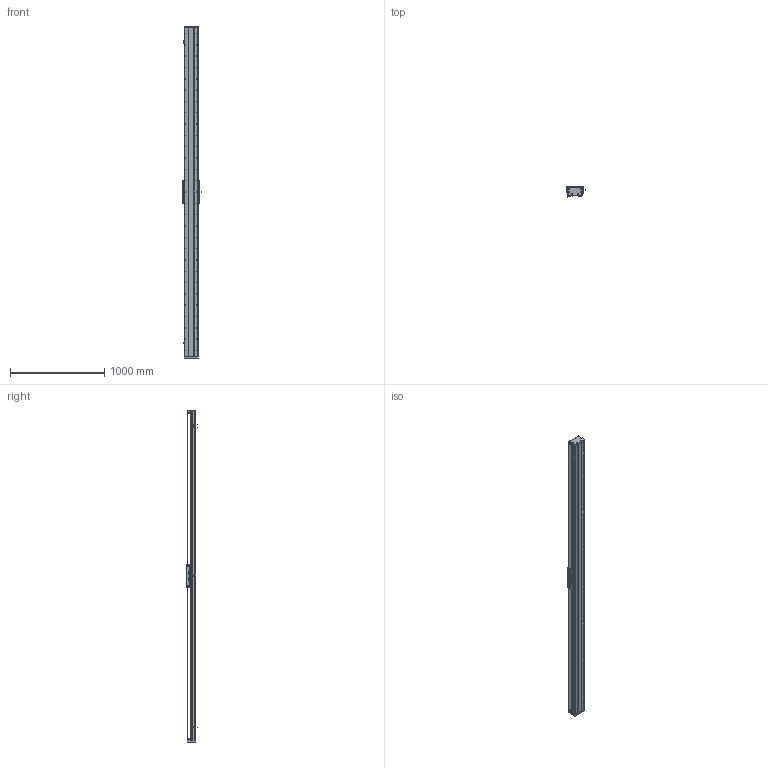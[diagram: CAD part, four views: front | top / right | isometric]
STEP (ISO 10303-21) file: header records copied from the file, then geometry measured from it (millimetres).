
FILE_DESCRIPTION (( 'STEP AP203' ), '1' );
FILE_NAME ('DA-C145-C3-T3180-C010-0.2 眻盄萇儂.STEP', '2025-08-14T01:37:30', ( '' ), ( '' ), 'SwSTEP 2.0', 'SolidWorks 2019', '' );
FILE_SCHEMA (( 'CONFIG_CONTROL_DESIGN' ));
Length unit declared in the file: millimetre
Products named in the file (32): 葩璃 DA95-GT-T-00^IU-CU145-L 菁釱絳寢; DA-C145-C3-T3180-C010-0.2 眻盄萇儂; CU145-W 幗紩賑怢; IU-CU145-L 菁釱絳寢; 复件 DA95-DB-00  挡板^CU145-W 滚珠滑台; 复件 内六角平端紧定螺钉 GB.T77-2000 M5×10^CU145-W 滚珠滑台; 复件 DA145-C3-YB-A-00 压板A^CU145-W 滚珠滑台; 复件 DA95-MFP-01 密封片^CU145-W 滚珠滑台; 葩璃 DMA-010-0.2 黍杅芛^DA-C145-C3-T-C010-0.2; 复件 DA145 钢带^复件 CU145 钢带组件_DA-C145-C3-T-C010-0.2; 葩璃 CKMA01-W060-TRL^DA-C145-C3-T-C010-0.2; 复件 半圆头内六角螺钉 M3×6^CU145-W 滚珠滑台; 葩璃 DA95-HXJ-00 遣喳砎蝶^DA-C145-C3-T-C010-0.2; 葩璃 CU145 詩湍郪璃^DA-C145-C3-T-C010-0.2; TAY01-M8; 葩璃 DA145-C3-DP-B-00 菜えB^CU145-W 幗紩賑怢; 葩璃 CKM03-W060-C1C2-TP-0.2^DA-C145-C3-T-C010-0.2; 复件 DA146 钢带垫块^复件 CU145 钢带组件_DA-C145-C3-T-C010-0.2; 葩璃 鞠褒情蹟譫 M3^DA-C145-C3-T-C010-0.2; 66245-CU145-HT-W-00 賑雄怢啣(3D芞祧)(00); IU-CU145-L-00 菁釱(L3480); 复件 DA145-C3-DK-00 挡块^CU145-W 滚珠滑台; 复件 DA95-HK-GT-00 滑块钢轨^CU145-W-00 一体化滑动台板; CU145-W-00 珨极趙賑雄怢啣; 复件 DA145-DG 钢带端盖^复件 CU145 钢带组件_DA-C145-C3-T-C010-0.2; 复件 DA145-GYP-00 光电感应片^DA-C145-C3-T-C010-0.2; 葩璃 XD-U-02L 棠掑喜^DA-C145-C3-T-C010-0.2; 葩璃 DA145-C3-DP-A-00 菜えA^CU145-W 幗紩賑怢; 复件 纯铜油杯 6x6mm^CU145-W 滚珠滑台; 葩璃 PM-T45^DA-C145-C3-T-C010-0.2; 复件 DA145-C3-YB-B-00 压板B^CU145-W 滚珠滑台; 复件 DA146 钢带拉块^复件 CU145 钢带组件_DA-C145-C3-T-C010-0.2
Assembly tree (103 placements, depth 4):
  DA-C145-C3-T3180-C010-0.2 眻盄萇儂
    IU-CU145-L 菁釱絳寢
      IU-CU145-L-00 菁釱(L3480)
      葩璃 DA95-GT-T-00^IU-CU145-L 菁釱絳寢  x4
    葩璃 CU145 詩湍郪璃^DA-C145-C3-T-C010-0.2
      复件 DA145-DG 钢带端盖^复件 CU145 钢带组件_DA-C145-C3-T-C010-0.2  x2
      复件 DA146 钢带拉块^复件 CU145 钢带组件_DA-C145-C3-T-C010-0.2  x2
      复件 DA146 钢带垫块^复件 CU145 钢带组件_DA-C145-C3-T-C010-0.2  x2
      复件 DA145 钢带^复件 CU145 钢带组件_DA-C145-C3-T-C010-0.2
    CU145-W 幗紩賑怢
      CU145-W-00 珨极趙賑雄怢啣
        66245-CU145-HT-W-00 賑雄怢啣(3D芞祧)(00)
        复件 DA95-HK-GT-00 滑块钢轨^CU145-W-00 一体化滑动台板  x8
      复件 DA95-MFP-01 密封片^CU145-W 滚珠滑台  x8
      复件 DA95-DB-00  挡板^CU145-W 滚珠滑台  x8
      复件 内六角平端紧定螺钉 GB.T77-2000 M5×10^CU145-W 滚珠滑台  x4
      复件 纯铜油杯 6x6mm^CU145-W 滚珠滑台  x4
      复件 半圆头内六角螺钉 M3×6^CU145-W 滚珠滑台  x16
      复件 DA145-C3-DK-00 挡块^CU145-W 滚珠滑台  x4
      葩璃 DA145-C3-DP-B-00 菜えB^CU145-W 幗紩賑怢  x2
      复件 DA145-C3-YB-B-00 压板B^CU145-W 滚珠滑台  x2
      葩璃 DA145-C3-DP-A-00 菜えA^CU145-W 幗紩賑怢  x3
      复件 DA145-C3-YB-A-00 压板A^CU145-W 滚珠滑台  x3
      TAY01-M8  x4
    葩璃 CKMA01-W060-TRL^DA-C145-C3-T-C010-0.2
    葩璃 PM-T45^DA-C145-C3-T-C010-0.2  x3
    葩璃 XD-U-02L 棠掑喜^DA-C145-C3-T-C010-0.2
    葩璃 DA95-HXJ-00 遣喳砎蝶^DA-C145-C3-T-C010-0.2  x4
    复件 DA145-GYP-00 光电感应片^DA-C145-C3-T-C010-0.2
    葩璃 DMA-010-0.2 黍杅芛^DA-C145-C3-T-C010-0.2
    葩璃 CKM03-W060-C1C2-TP-0.2^DA-C145-C3-T-C010-0.2
    葩璃 鞠褒情蹟譫 M3^DA-C145-C3-T-C010-0.2  x8
Bounding box: 203.5 x 108.45 x 3516 mm (x, y, z)
Volume: 15822945 mm3; surface area: 5381145.8 mm2
Topology: 99 solids, 131 shells, 4998 faces, 14726 edges, 9282 vertices
Faces by surface type: cylinder 2620, plane 1610, cone 690, torus 74, sphere 4
Entity records: 148824 total; most frequent: CARTESIAN_POINT 46824, ORIENTED_EDGE 20972, DIRECTION 19445, EDGE_CURVE 10486, AXIS2_PLACEMENT_3D 7326, VERTEX_POINT 6821, VECTOR 4793, LINE 4793
